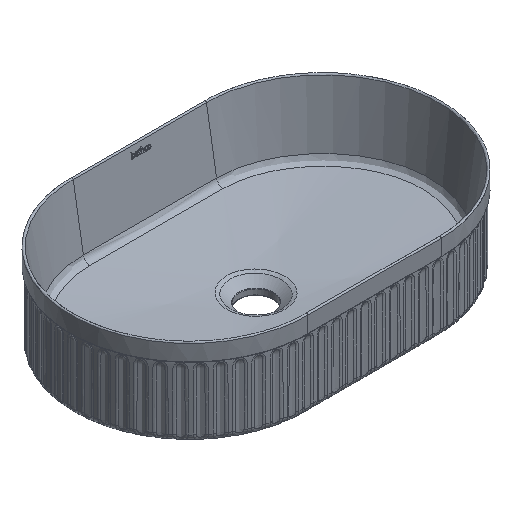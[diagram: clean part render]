
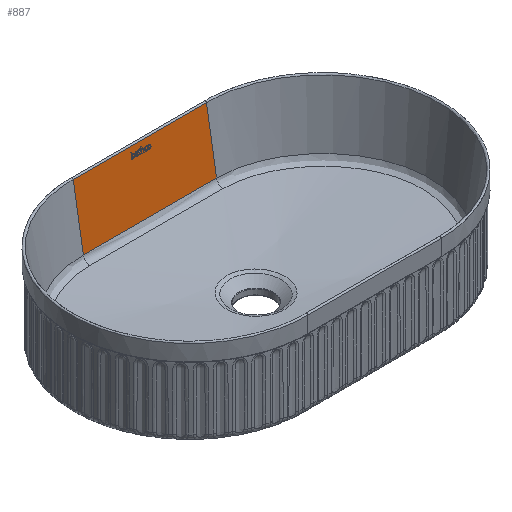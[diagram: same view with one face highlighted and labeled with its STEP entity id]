
A CAD part, isometric view. The second image highlights one B-rep face of the part: STEP entity #887.
In plain terms, the highlighted planar face has unit normal (0, -0.986, 0.166).
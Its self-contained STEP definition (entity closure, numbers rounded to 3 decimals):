
#78=(
BOUNDED_CURVE()
B_SPLINE_CURVE(3,(#52478,#52479,#52480,#52481,#52482,#52483,#52484,#52485),
 .UNSPECIFIED.,.F.,.F.)
B_SPLINE_CURVE_WITH_KNOTS((4,1,3,4),(0.,90.,
180.,180.),.UNSPECIFIED.)
CURVE()
GEOMETRIC_REPRESENTATION_ITEM()
RATIONAL_B_SPLINE_CURVE((1.,1.,1.,1.,1.,1.,
1.,1.))
REPRESENTATION_ITEM('')
);
#887=ADVANCED_FACE('',(#1243),#5084,.T.);
#1243=FACE_OUTER_BOUND('',#1597,.T.);
#1597=EDGE_LOOP('',(#2239,#2240,#2241,#2242));
#2239=ORIENTED_EDGE('',*,*,#3651,.F.);
#2240=ORIENTED_EDGE('',*,*,#3654,.F.);
#2241=ORIENTED_EDGE('',*,*,#3653,.T.);
#2242=ORIENTED_EDGE('',*,*,#3729,.F.);
#3651=EDGE_CURVE('',#4661,#4696,#4439,.T.);
#3653=EDGE_CURVE('',#4663,#4698,#4441,.T.);
#3654=EDGE_CURVE('',#4663,#4661,#4442,.T.);
#3729=EDGE_CURVE('',#4696,#4698,#78,.T.);
#4439=B_SPLINE_CURVE_WITH_KNOTS('',1,(#51154,#51155),.UNSPECIFIED.,.F.,
 .F.,(2,2),(-89.697,-7.19),.UNSPECIFIED.);
#4441=B_SPLINE_CURVE_WITH_KNOTS('',1,(#51222,#51223),.UNSPECIFIED.,.F.,
 .F.,(2,2),(-89.697,-7.19),.UNSPECIFIED.);
#4442=B_SPLINE_CURVE_WITH_KNOTS('',1,(#51224,#51225),.UNSPECIFIED.,.F.,
 .F.,(2,2),(0.,180.),.UNSPECIFIED.);
#4661=VERTEX_POINT('',#50560);
#4663=VERTEX_POINT('',#50562);
#4696=VERTEX_POINT('',#50595);
#4698=VERTEX_POINT('',#50597);
#5084=PLANE('',#5239);
#5239=AXIS2_PLACEMENT_3D('',#7134,#5319,$);
#5319=DIRECTION('',(0.,-0.986,0.166));
#7134=CARTESIAN_POINT('',(22294.316,1483.442,-7466.552));
#50560=CARTESIAN_POINT('',(22474.315,1498.347,-7377.839));
#50562=CARTESIAN_POINT('',(22294.315,1498.347,-7377.839));
#50595=CARTESIAN_POINT('',(22474.315,1484.676,-7459.206));
#50597=CARTESIAN_POINT('',(22294.315,1484.676,-7459.206));
#51154=CARTESIAN_POINT('',(22474.315,1498.347,-7377.839));
#51155=CARTESIAN_POINT('',(22474.315,1484.676,-7459.206));
#51222=CARTESIAN_POINT('',(22294.315,1498.347,-7377.839));
#51223=CARTESIAN_POINT('',(22294.315,1484.676,-7459.206));
#51224=CARTESIAN_POINT('',(22294.315,1498.347,-7377.839));
#51225=CARTESIAN_POINT('',(22474.315,1498.347,-7377.839));
#52478=CARTESIAN_POINT('',(22474.315,1484.676,-7459.206));
#52479=CARTESIAN_POINT('',(22444.316,1484.657,-7459.317));
#52480=CARTESIAN_POINT('',(22384.315,1484.639,-7459.425));
#52481=CARTESIAN_POINT('',(22324.315,1484.657,-7459.317));
#52482=CARTESIAN_POINT('',(22294.316,1484.676,-7459.206));
#52483=CARTESIAN_POINT('',(22294.316,1484.676,-7459.206));
#52484=CARTESIAN_POINT('',(22294.315,1484.676,-7459.206));
#52485=CARTESIAN_POINT('',(22294.315,1484.676,-7459.206));
